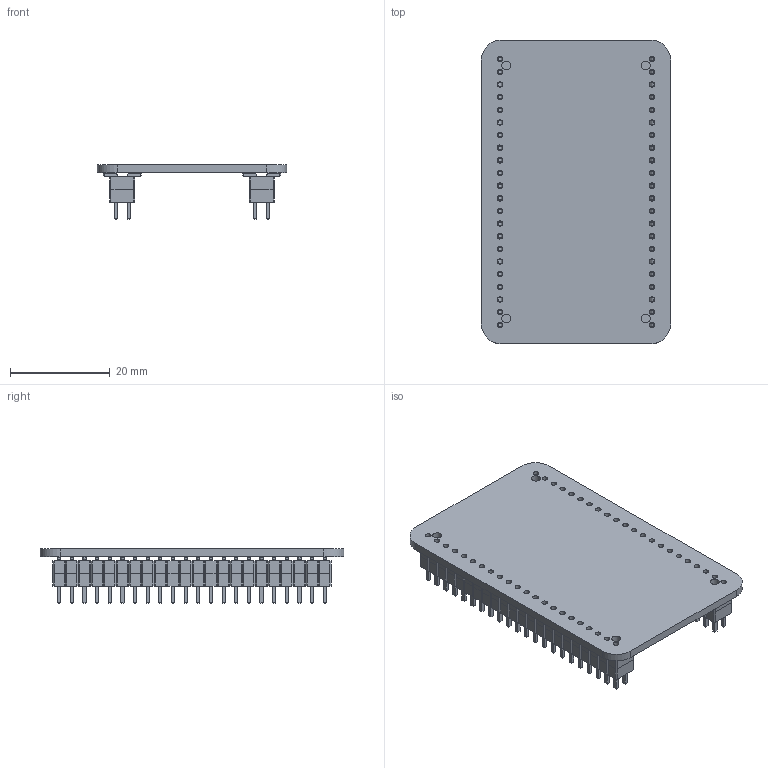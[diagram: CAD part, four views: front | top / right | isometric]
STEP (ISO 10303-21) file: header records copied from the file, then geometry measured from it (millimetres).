
FILE_DESCRIPTION(/* description */ (''),/* implementation_level */ '2;1');
FILE_NAME(/* name */ 'C:/Users/Kurs/Desktop/Eselsbruecke v1.2/Documentation/Eselsbruecke_v12.step',/* time_stamp */ '2020-06-09T08:47:38+03:00',/* author */ (''),/* organization */ (''),/* preprocessor_version */ 'ST-DEVELOPER v18.1',/* originating_system */ 'Autodesk Translation Framework v9.3.0.1241',/* authorisation */ '');
FILE_SCHEMA (('AUTOMOTIVE_DESIGN { 1 0 10303 214 3 1 1 }'));
Length unit declared in the file: millimetre
Products named in the file (4): Open CASCADE STEP translator 6.9 1; PinHeader_2x22_P2.54mm_Vertical_SMD_Higher_isolation; COMPOUND (1); COMPOUND
Assembly tree (4 placements, depth 3):
  Open CASCADE STEP translator 6.9 1
    PinHeader_2x22_P2.54mm_Vertical_SMD_Higher_isolation  x2
      COMPOUND (1)
    COMPOUND
Bounding box: 38 x 61 x 11 mm (x, y, z)
Volume: 6679.8 mm3; surface area: 11094 mm2
Topology: 5 solids, 5 shells, 2802 faces, 7144 edges, 4528 vertices
Faces by surface type: plane 2662, cylinder 140
Full cylindrical faces by diameter (mm): 1.1 x44, 1.8 x4
Entity records: 43617 total; most frequent: CARTESIAN_POINT 7414, ORIENTED_EDGE 7312, DIRECTION 6724, EDGE_CURVE 3656, LINE 3464, VECTOR 3464, VERTEX_POINT 2320, EDGE_LOOP 1702
